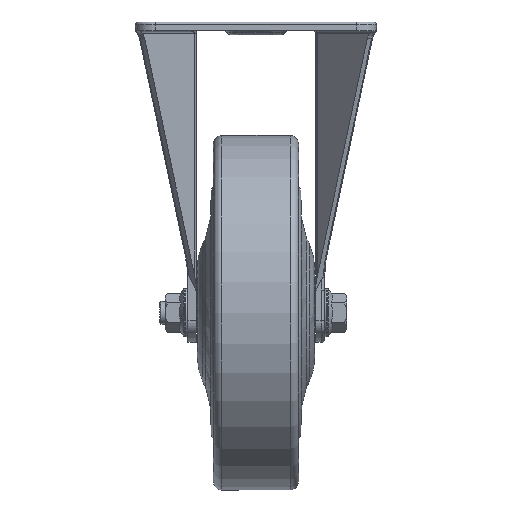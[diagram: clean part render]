
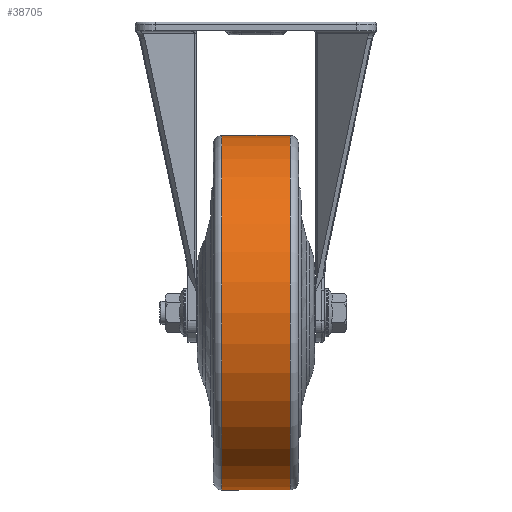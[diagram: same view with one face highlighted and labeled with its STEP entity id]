
A CAD part, left-side view. The second image highlights one B-rep face of the part: STEP entity #38705.
In plain terms, the highlighted cylindrical face has radius 62.499 mm (diameter 124.998 mm), a full revolution.
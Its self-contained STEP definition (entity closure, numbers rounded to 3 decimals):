
#38674=CARTESIAN_POINT('',(15.893,136.628,-47.505));
#38675=VERTEX_POINT('',#38674);
#38676=CARTESIAN_POINT('',(78.392,136.628,-47.505));
#38677=DIRECTION('',(0.0,-1.0,0.0));
#38678=DIRECTION('',(1.0,0.0,0.0));
#38679=AXIS2_PLACEMENT_3D('',#38676,#38677,#38678);
#38680=CIRCLE('',#38679,62.499);
#38681=EDGE_CURVE('',#38675,#38675,#38680,.T.);
#38686=CARTESIAN_POINT('',(78.392,148.628,-47.505));
#38687=DIRECTION('',(0.0,-1.0,0.0));
#38688=DIRECTION('',(1.0,0.0,0.0));
#38689=AXIS2_PLACEMENT_3D('',#38686,#38687,#38688);
#38690=CYLINDRICAL_SURFACE('',#38689,62.499);
#38691=ORIENTED_EDGE('',*,*,#38681,.F.);
#38692=EDGE_LOOP('',(#38691));
#38693=FACE_OUTER_BOUND('',#38692,.T.);
#38694=CARTESIAN_POINT('',(15.893,160.628,-47.505));
#38695=VERTEX_POINT('',#38694);
#38696=CARTESIAN_POINT('',(78.392,160.628,-47.505));
#38697=DIRECTION('',(0.0,-1.0,0.0));
#38698=DIRECTION('',(1.0,0.0,0.0));
#38699=AXIS2_PLACEMENT_3D('',#38696,#38697,#38698);
#38700=CIRCLE('',#38699,62.499);
#38701=EDGE_CURVE('',#38695,#38695,#38700,.T.);
#38702=ORIENTED_EDGE('',*,*,#38701,.T.);
#38703=EDGE_LOOP('',(#38702));
#38704=FACE_BOUND('',#38703,.T.);
#38705=ADVANCED_FACE('',(#38693,#38704),#38690,.T.);
